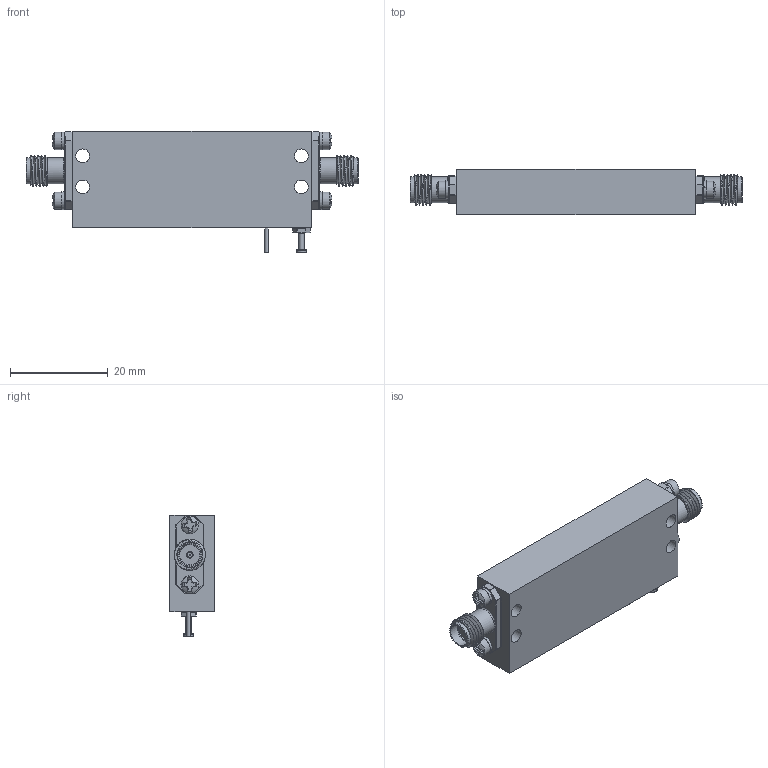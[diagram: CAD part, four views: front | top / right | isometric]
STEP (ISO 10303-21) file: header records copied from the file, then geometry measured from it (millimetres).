
FILE_DESCRIPTION (( 'STEP AP214' ), '1' );
FILE_NAME ('PEC-13-20M6G-3R0-20-12-SFF.STEP', '2026-03-06T19:31:28', ( '' ), ( '' ), 'SwSTEP 2.0', 'SolidWorks 2025', '' );
FILE_SCHEMA (( 'AUTOMOTIVE_DESIGN' ));
Length unit declared in the file: inch
Products named in the file (1): PEC-13-20M6G-3R0-20-12-SFF
Bounding box: 67.82 x 9.27 x 24.92 mm (x, y, z)
Surface area: 5267.5 mm2 (no closed solid volume)
Topology: 0 solids, 16 shells, 441 faces, 1853 edges, 1516 vertices
Faces by surface type: plane 258, cylinder 93, torus 28, cone 22, sphere 20, bspline 20
Full cylindrical faces by diameter (mm): 0.762 x1, 1.016 x2, 1.067 x1, 1.93 x1, 2.845 x4, 3.556 x4, 4.191 x2, 4.597 x2, 5.283 x4
Entity records: 30600 total; most frequent: CARTESIAN_POINT 9914, ORIENTED_EDGE 3399, DIRECTION 2738, EDGE_CURVE 1791, VERTEX_POINT 1509, VECTOR 922, LINE 922, AXIS2_PLACEMENT_3D 908
